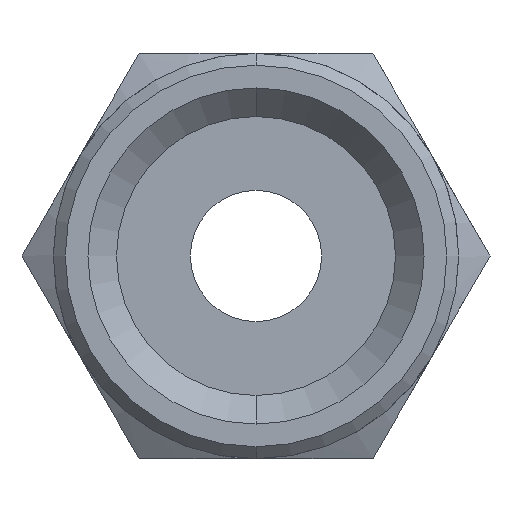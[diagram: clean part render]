
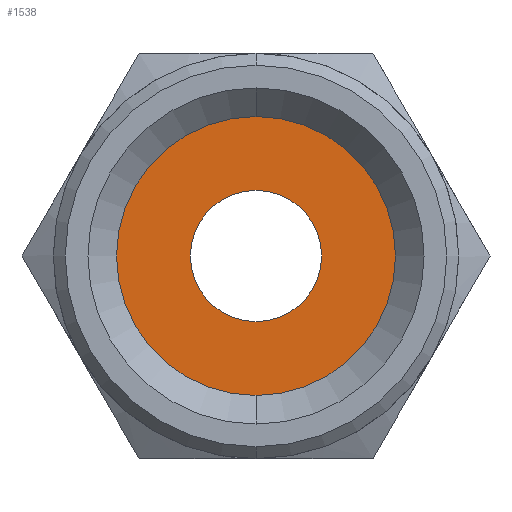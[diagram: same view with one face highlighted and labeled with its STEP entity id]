
A CAD part, front view. The second image highlights one B-rep face of the part: STEP entity #1538.
In plain terms, the highlighted planar face has unit normal (0, -1, 0).
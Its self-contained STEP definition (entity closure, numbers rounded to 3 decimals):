
#10 = ORIENTED_EDGE ( 'NONE', *, *, #784, .F. ) ;
#96 = VERTEX_POINT ( 'NONE', #1170 ) ;
#167 = ORIENTED_EDGE ( 'NONE', *, *, #1368, .T. ) ;
#224 = CARTESIAN_POINT ( 'NONE',  ( 0., 12., 0. ) ) ;
#241 = VERTEX_POINT ( 'NONE', #632 ) ;
#259 = CARTESIAN_POINT ( 'NONE',  ( 0., 12., 0. ) ) ;
#267 = AXIS2_PLACEMENT_3D ( 'NONE', #1127, #930, #1257 ) ;
#313 = VERTEX_POINT ( 'NONE', #1330 ) ;
#315 = DIRECTION ( 'NONE',  ( 0., -1., 0. ) ) ;
#345 = DIRECTION ( 'NONE',  ( 0., 0., 1. ) ) ;
#378 = FACE_OUTER_BOUND ( 'NONE', #1397, .T. ) ;
#394 = FACE_BOUND ( 'NONE', #1180, .T. ) ;
#420 = CARTESIAN_POINT ( 'NONE',  ( 0., 12., 2.75 ) ) ;
#423 = DIRECTION ( 'NONE',  ( 0., 0., 1. ) ) ;
#534 = VERTEX_POINT ( 'NONE', #420 ) ;
#541 = AXIS2_PLACEMENT_3D ( 'NONE', #259, #315, #1415 ) ;
#547 = CARTESIAN_POINT ( 'NONE',  ( 0., 12., 0. ) ) ;
#565 = DIRECTION ( 'NONE',  ( 0., -1., 0. ) ) ;
#599 = CARTESIAN_POINT ( 'NONE',  ( 0., 12., 0. ) ) ;
#632 = CARTESIAN_POINT ( 'NONE',  ( 0., 12., 5.85 ) ) ;
#662 = AXIS2_PLACEMENT_3D ( 'NONE', #224, #1050, #345 ) ;
#689 = EDGE_CURVE ( 'NONE', #534, #96, #992, .T. ) ;
#691 = ORIENTED_EDGE ( 'NONE', *, *, #1051, .T. ) ;
#737 = ORIENTED_EDGE ( 'NONE', *, *, #689, .F. ) ;
#784 = EDGE_CURVE ( 'NONE', #96, #534, #1560, .T. ) ;
#785 = DIRECTION ( 'NONE',  ( 0., -1., 0. ) ) ;
#904 = DIRECTION ( 'NONE',  ( 0., 0., 1. ) ) ;
#930 = DIRECTION ( 'NONE',  ( 0., -1., 0. ) ) ;
#935 = AXIS2_PLACEMENT_3D ( 'NONE', #547, #785, #423 ) ;
#965 = AXIS2_PLACEMENT_3D ( 'NONE', #599, #565, #904 ) ;
#992 = CIRCLE ( 'NONE', #662, 2.75 ) ;
#1050 = DIRECTION ( 'NONE',  ( 0., -1., 0. ) ) ;
#1051 = EDGE_CURVE ( 'NONE', #241, #313, #1350, .T. ) ;
#1127 = CARTESIAN_POINT ( 'NONE',  ( -5.92, 12., -5.92 ) ) ;
#1170 = CARTESIAN_POINT ( 'NONE',  ( 0., 12., -2.75 ) ) ;
#1180 = EDGE_LOOP ( 'NONE', ( #737, #10 ) ) ;
#1211 = PLANE ( 'NONE',  #267 ) ;
#1257 = DIRECTION ( 'NONE',  ( 1., 0., 0. ) ) ;
#1330 = CARTESIAN_POINT ( 'NONE',  ( 0., 12., -5.85 ) ) ;
#1350 = CIRCLE ( 'NONE', #935, 5.85 ) ;
#1368 = EDGE_CURVE ( 'NONE', #313, #241, #1490, .T. ) ;
#1397 = EDGE_LOOP ( 'NONE', ( #691, #167 ) ) ;
#1415 = DIRECTION ( 'NONE',  ( 0., 0., 1. ) ) ;
#1490 = CIRCLE ( 'NONE', #541, 5.85 ) ;
#1538 = ADVANCED_FACE ( 'NONE', ( #394, #378 ), #1211, .T. ) ;
#1560 = CIRCLE ( 'NONE', #965, 2.75 ) ;
